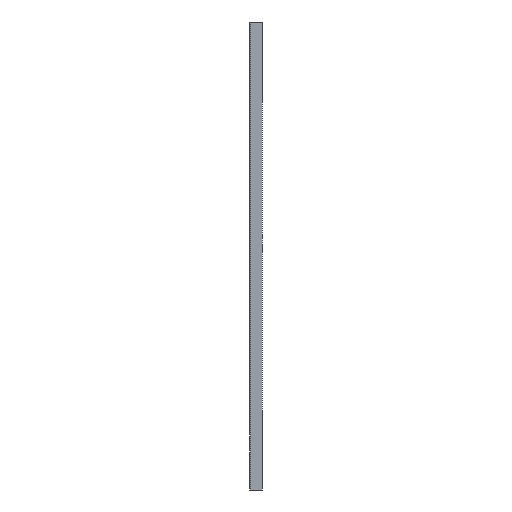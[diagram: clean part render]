
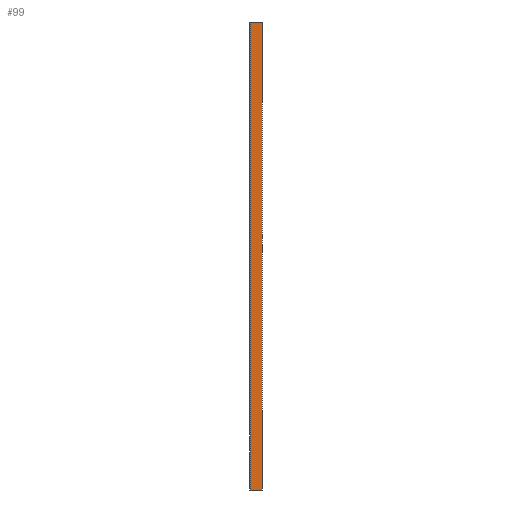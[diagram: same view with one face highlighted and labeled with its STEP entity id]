
A CAD part, left-side view. The second image highlights one B-rep face of the part: STEP entity #99.
In plain terms, the highlighted planar face has unit normal (-1, 0, 0).
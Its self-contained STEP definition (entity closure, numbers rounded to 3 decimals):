
#9 = VECTOR ( 'NONE', #186, 1000. ) ;
#57 = DIRECTION ( 'NONE',  ( 0., 0., 1. ) ) ;
#85 = CARTESIAN_POINT ( 'NONE',  ( -605.5, -20., 30. ) ) ;
#99 = ADVANCED_FACE ( 'NONE', ( #512 ), #429, .T. ) ;
#104 = VECTOR ( 'NONE', #57, 1000. ) ;
#176 = LINE ( 'NONE', #85, #764 ) ;
#186 = DIRECTION ( 'NONE',  ( 0., 1., 0. ) ) ;
#271 = DIRECTION ( 'NONE',  ( 0., 0., 1. ) ) ;
#325 = ORIENTED_EDGE ( 'NONE', *, *, #820, .F. ) ;
#330 = DIRECTION ( 'NONE',  ( 0., 1., 0. ) ) ;
#351 = DIRECTION ( 'NONE',  ( -1., 0., 0. ) ) ;
#360 = CARTESIAN_POINT ( 'NONE',  ( -605.5, -20., 30. ) ) ;
#377 = LINE ( 'NONE', #478, #635 ) ;
#426 = ORIENTED_EDGE ( 'NONE', *, *, #621, .T. ) ;
#429 = PLANE ( 'NONE',  #558 ) ;
#440 = ORIENTED_EDGE ( 'NONE', *, *, #1064, .F. ) ;
#478 = CARTESIAN_POINT ( 'NONE',  ( -605.5, -20., -734. ) ) ;
#512 = FACE_OUTER_BOUND ( 'NONE', #1117, .T. ) ;
#516 = CARTESIAN_POINT ( 'NONE',  ( -605.5, 0., -734. ) ) ;
#519 = VERTEX_POINT ( 'NONE', #360 ) ;
#558 = AXIS2_PLACEMENT_3D ( 'NONE', #872, #351, #271 ) ;
#621 = EDGE_CURVE ( 'NONE', #652, #519, #377, .T. ) ;
#635 = VECTOR ( 'NONE', #824, 1000. ) ;
#650 = CARTESIAN_POINT ( 'NONE',  ( -605.5, 0., -734. ) ) ;
#652 = VERTEX_POINT ( 'NONE', #654 ) ;
#654 = CARTESIAN_POINT ( 'NONE',  ( -605.5, -20., -734. ) ) ;
#735 = LINE ( 'NONE', #650, #104 ) ;
#739 = EDGE_CURVE ( 'NONE', #519, #856, #176, .T. ) ;
#764 = VECTOR ( 'NONE', #330, 1000. ) ;
#803 = VERTEX_POINT ( 'NONE', #516 ) ;
#820 = EDGE_CURVE ( 'NONE', #652, #803, #878, .T. ) ;
#824 = DIRECTION ( 'NONE',  ( 0., 0., 1. ) ) ;
#856 = VERTEX_POINT ( 'NONE', #969 ) ;
#872 = CARTESIAN_POINT ( 'NONE',  ( -605.5, -20., -734. ) ) ;
#878 = LINE ( 'NONE', #964, #9 ) ;
#964 = CARTESIAN_POINT ( 'NONE',  ( -605.5, -20., -734. ) ) ;
#969 = CARTESIAN_POINT ( 'NONE',  ( -605.5, 0., 30. ) ) ;
#992 = ORIENTED_EDGE ( 'NONE', *, *, #739, .T. ) ;
#1064 = EDGE_CURVE ( 'NONE', #803, #856, #735, .T. ) ;
#1117 = EDGE_LOOP ( 'NONE', ( #440, #325, #426, #992 ) ) ;
